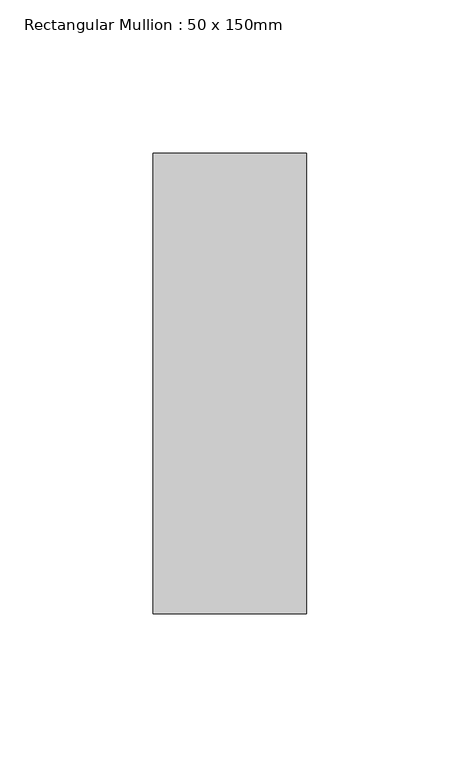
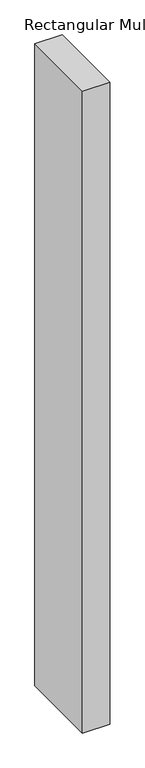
"""IFC4 building model written with IfcOpenShell, lengths in millimetres: member geometry, Rectangular Mullion : 50 x 150mm."""

from ifc_helpers import new_model, si_unit, frame, origin, place, context, project, spatial, polyline, outline, extrude, source, transform, mapped, element, save


def rectangular_mullion_50_x_150mm_d8a6659f(model_context):
    return source(origin(), model_context, "Body", "SweptSolid", [
        extrude(outline(polyline([(0.0, 75.0), (0.0, -75.0), (-50.0, -75.0), (-50.0, 75.0), (0.0, 75.0)])), frame((0.0, 0.0, -1236.3575), z_axis=(0.0, 0.0, 1.0), x_axis=(1.0, 0.0, 0.0)), (0.0, 0.0, 1.0), 1236.3575),
    ])


if __name__ == "__main__":
    model = new_model("IFC4")
    model_context = context("Model", 3, world=origin())
    ifc_project = project(units=[si_unit("LENGTHUNIT", "METRE", prefix="MILLI")], contexts=[model_context])
    site = spatial("IfcSite", under=ifc_project)
    building = spatial("IfcBuilding", under=site)
    placement = place(None, origin())
    rectangular_mullion_50_x_150mm_shape = rectangular_mullion_50_x_150mm_d8a6659f(model_context)
    element("IfcMember", 1, ObjectType="Rectangular Mullion : 50 x 150mm", at=placement, inside=building, context=model_context, shape_type="MappedRepresentation", body=[
        mapped(rectangular_mullion_50_x_150mm_shape, transform((0.0, 0.0, 0.0), x_axis=(1.0, 0.0, 0.0), y_axis=(0.0, 1.0, 0.0), z_axis=(0.0, 0.0, 1.0))),
    ])
    save(model, "model.ifc")
